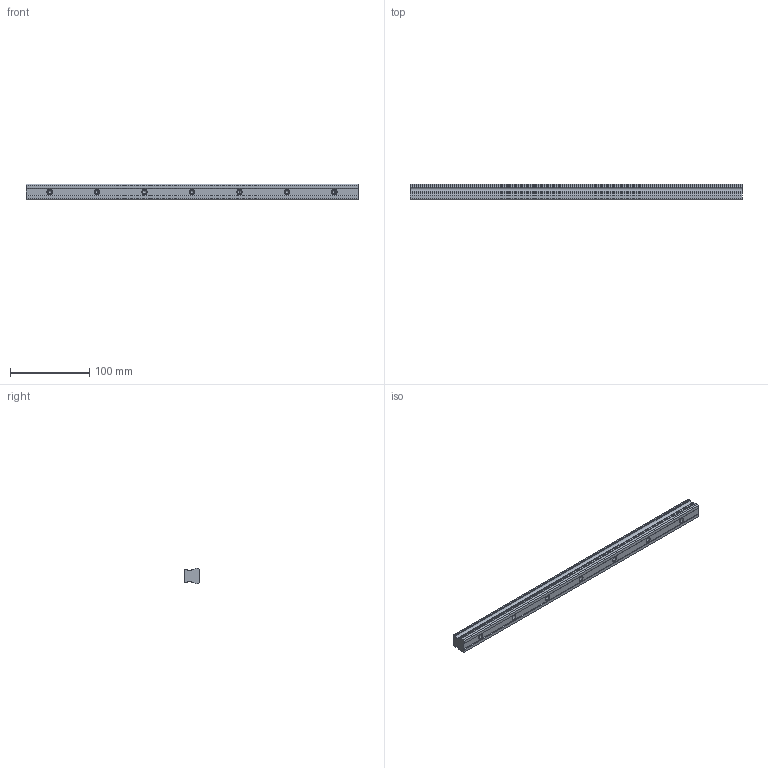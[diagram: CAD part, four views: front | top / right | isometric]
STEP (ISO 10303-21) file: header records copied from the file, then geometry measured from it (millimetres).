
FILE_DESCRIPTION (( 'STEP AP203' ), '1' );
FILE_NAME ('L1018.20R-0420.step', '2023-08-06T09:05:02', ( '' ), ( '' ), 'SwSTEP 2.0', 'SolidWorks 2019', '' );
FILE_SCHEMA (( 'CONFIG_CONTROL_DESIGN' ));
Length unit declared in the file: millimetre
Products named in the file (1): L1018.20R-0420
Bounding box: 420 x 19.3 x 20 mm (x, y, z)
Volume: 133193.9 mm3; surface area: 36090 mm2
Topology: 1 solids, 1 shells, 92 faces, 221 edges, 131 vertices
Faces by surface type: plane 33, cylinder 31, cone 28
Entity records: 2636 total; most frequent: DIRECTION 469, CARTESIAN_POINT 431, ORIENTED_EDGE 414, EDGE_CURVE 207, AXIS2_PLACEMENT_3D 169, LINE 131, VECTOR 131, VERTEX_POINT 131
